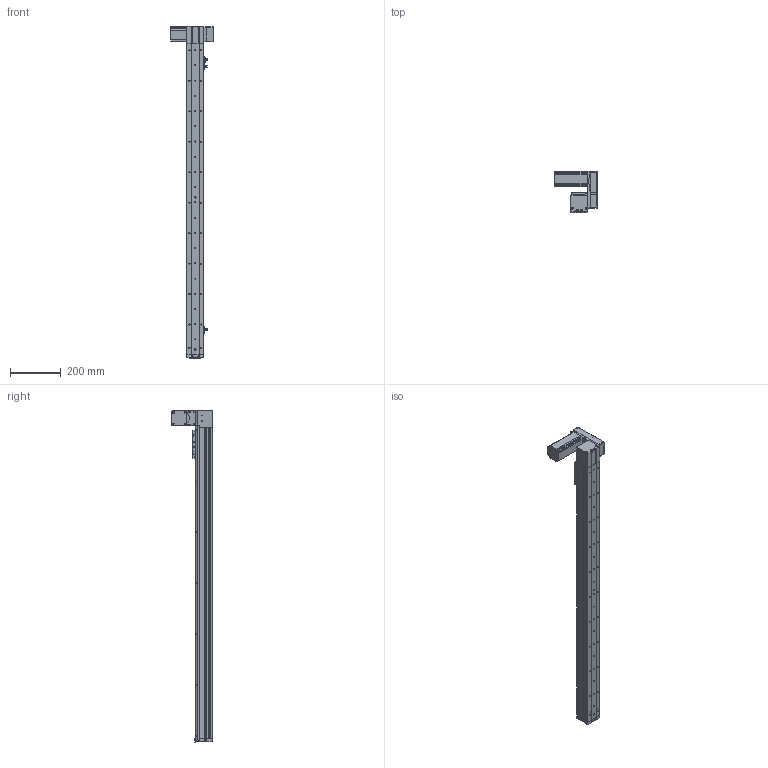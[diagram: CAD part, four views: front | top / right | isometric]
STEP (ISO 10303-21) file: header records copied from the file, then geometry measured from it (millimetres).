
FILE_DESCRIPTION (( 'STEP AP214' ), '1' );
FILE_NAME ('KSD68BS-S1050-MLU-CR.STEP', '2019-11-07T07:45:41', ( '微软用户' ), ( '微软中国' ), 'SwSTEP 2.0', 'SolidWorks 2014', '' );
FILE_SCHEMA (( 'AUTOMOTIVE_DESIGN' ));
Length unit declared in the file: millimetre
Products named in the file (14): 悵誘欶奻狟殏; 68宽马达安装板连板上折同步带; 感应片68宽全封闭; U倰嫖萇EEㄜSX672; 台达ECMA－C20604AS伺服电机（400W); KSD68BS 1050行程底板全封闭; KSD68BS-S1050-MLU-CR; 68遵裔啣揤啣1; KSD68BS 1050行程盖板全封闭; 68宽单导轨全封闭丝杆传动安装板1防护罩; KSD68BS 1050行程侧板全封闭; 68宽单导轨全封闭同步带端板; 68单导轨全封闭同步带电机座左; 68单导轨全封闭同步带安装板
Assembly tree (17 placements, depth 2):
  KSD68BS-S1050-MLU-CR
    KSD68BS 1050行程底板全封闭
    台达ECMA－C20604AS伺服电机（400W)
    U倰嫖萇EEㄜSX672  x3
    感应片68宽全封闭
    68宽马达安装板连板上折同步带
    悵誘欶奻狟殏
    68单导轨全封闭同步带安装板
    68单导轨全封闭同步带电机座左
    68宽单导轨全封闭同步带端板
    KSD68BS 1050行程侧板全封闭  x2
    68宽单导轨全封闭丝杆传动安装板1防护罩
    68遵裔啣揤啣1  x2
    KSD68BS 1050行程盖板全封闭
Bounding box: 167.2 x 159.5 x 1308.1 mm (x, y, z)
Volume: 2603168.6 mm3; surface area: 1004306.1 mm2
Topology: 18 solids, 18 shells, 1539 faces, 4389 edges, 2804 vertices
Faces by surface type: cylinder 738, plane 629, cone 172
Entity records: 49143 total; most frequent: CARTESIAN_POINT 8499, DIRECTION 7340, ORIENTED_EDGE 7022, EDGE_CURVE 3511, AXIS2_PLACEMENT_3D 2657, VERTEX_POINT 2302, LINE 2026, VECTOR 2026
